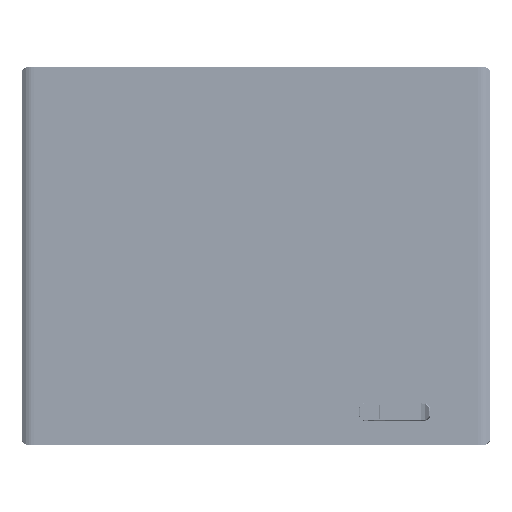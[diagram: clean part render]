
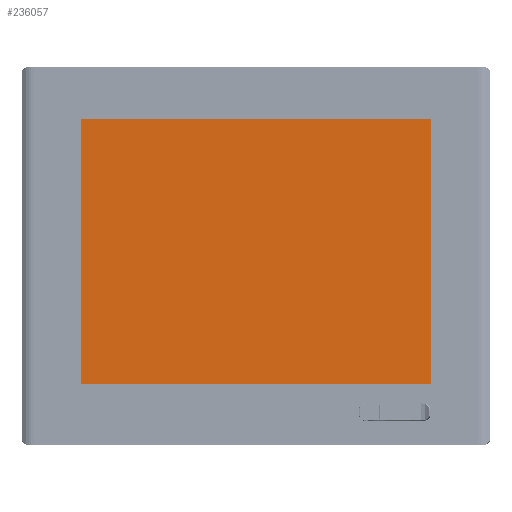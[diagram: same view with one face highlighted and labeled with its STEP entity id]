
A CAD part, top view. The second image highlights one B-rep face of the part: STEP entity #236057.
In plain terms, the highlighted planar face has unit normal (0, 0, 1) as drawn and (0, 1, 0) by its records, which use the part's own axes.
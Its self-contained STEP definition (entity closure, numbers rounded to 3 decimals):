
#14267 = VERTEX_POINT ( 'NONE', #341650 ) ;
#26473 = CARTESIAN_POINT ( 'NONE',  ( 125.5, 0.41, 91.75 ) ) ;
#27316 = VECTOR ( 'NONE', #57376, 1000. ) ;
#30553 = CARTESIAN_POINT ( 'NONE',  ( -125.5, 0.41, -97.75 ) ) ;
#33444 = EDGE_CURVE ( 'NONE', #14267, #72767, #354801, .T. ) ;
#51097 = VECTOR ( 'NONE', #209083, 1000. ) ;
#52032 = VERTEX_POINT ( 'NONE', #358275 ) ;
#57376 = DIRECTION ( 'NONE',  ( 0., 0., 1. ) ) ;
#58005 = DIRECTION ( 'NONE',  ( -1., 0., 0. ) ) ;
#72767 = VERTEX_POINT ( 'NONE', #238235 ) ;
#101841 = CARTESIAN_POINT ( 'NONE',  ( -125.5, 0.41, -97.75 ) ) ;
#102141 = DIRECTION ( 'NONE',  ( 0., 1., 0. ) ) ;
#108001 = AXIS2_PLACEMENT_3D ( 'NONE', #334221, #102141, #364886 ) ;
#139994 = EDGE_CURVE ( 'NONE', #187461, #14267, #204968, .T. ) ;
#146085 = CARTESIAN_POINT ( 'NONE',  ( 125.5, 0.41, -97.75 ) ) ;
#172067 = LINE ( 'NONE', #26473, #261298 ) ;
#182855 = ORIENTED_EDGE ( 'NONE', *, *, #33444, .T. ) ;
#187461 = VERTEX_POINT ( 'NONE', #101841 ) ;
#194151 = ORIENTED_EDGE ( 'NONE', *, *, #377453, .T. ) ;
#204968 = LINE ( 'NONE', #30553, #27316 ) ;
#209083 = DIRECTION ( 'NONE',  ( 1., 0., 0. ) ) ;
#215922 = LINE ( 'NONE', #146085, #307420 ) ;
#231473 = DIRECTION ( 'NONE',  ( 0., 0., -1. ) ) ;
#236057 = ADVANCED_FACE ( 'NONE', ( #238434 ), #355452, .T. ) ;
#238235 = CARTESIAN_POINT ( 'NONE',  ( 125.5, 0.41, 91.75 ) ) ;
#238434 = FACE_OUTER_BOUND ( 'NONE', #307305, .T. ) ;
#249883 = ORIENTED_EDGE ( 'NONE', *, *, #362905, .T. ) ;
#261298 = VECTOR ( 'NONE', #231473, 1000. ) ;
#288505 = ORIENTED_EDGE ( 'NONE', *, *, #139994, .T. ) ;
#307305 = EDGE_LOOP ( 'NONE', ( #182855, #249883, #194151, #288505 ) ) ;
#307420 = VECTOR ( 'NONE', #58005, 1000. ) ;
#334221 = CARTESIAN_POINT ( 'NONE',  ( 0., 0.41, 0. ) ) ;
#341650 = CARTESIAN_POINT ( 'NONE',  ( -125.5, 0.41, 91.75 ) ) ;
#354801 = LINE ( 'NONE', #358553, #51097 ) ;
#355452 = PLANE ( 'NONE',  #108001 ) ;
#358275 = CARTESIAN_POINT ( 'NONE',  ( 125.5, 0.41, -97.75 ) ) ;
#358553 = CARTESIAN_POINT ( 'NONE',  ( -125.5, 0.41, 91.75 ) ) ;
#362905 = EDGE_CURVE ( 'NONE', #72767, #52032, #172067, .T. ) ;
#364886 = DIRECTION ( 'NONE',  ( 1., 0., 0. ) ) ;
#377453 = EDGE_CURVE ( 'NONE', #52032, #187461, #215922, .T. ) ;
